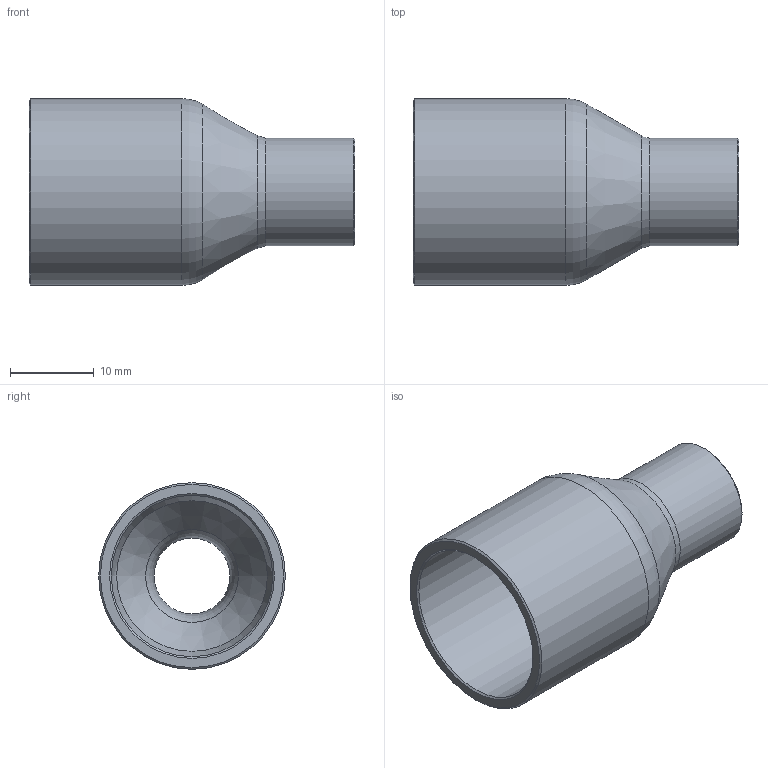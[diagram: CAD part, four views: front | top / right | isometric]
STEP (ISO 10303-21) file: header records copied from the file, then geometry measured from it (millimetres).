
FILE_DESCRIPTION((''),'2;1');
FILE_NAME('G:\SANHA-Ternat\Technik\Management\Bouwmaten + markeringen\z-maattekeningen 3D\29000s\292437838_3d.stp','2017-08-03T15:54:09',('vdvijverd'),(''),'Autodesk Inventor 2009','Autodesk Inventor 2009','');
FILE_SCHEMA(('AUTOMOTIVE_DESIGN { 1 0 10303 214 1 1 1 1 }'));
Length unit declared in the file: millimetre
Products named in the file (1): 292437838_3d
Bounding box: 38.8 x 22.23 x 22.23 mm (x, y, z)
Volume: 3356 mm3; surface area: 4374.6 mm2
Topology: 1 solids, 1 shells, 17 faces, 32 edges, 17 vertices
Faces by surface type: cone 6, cylinder 4, bspline 3, plane 2, torus 2
Full cylindrical faces by diameter (mm): 9.645 x1, 12.845 x1, 19.225 x1, 22.225 x1
Entity records: 494 total; most frequent: CARTESIAN_POINT 184, DIRECTION 64, ORIENTED_EDGE 34, EDGE_LOOP 34, AXIS2_PLACEMENT_3D 32, VERTEX_POINT 17, CIRCLE 17, EDGE_CURVE 17
